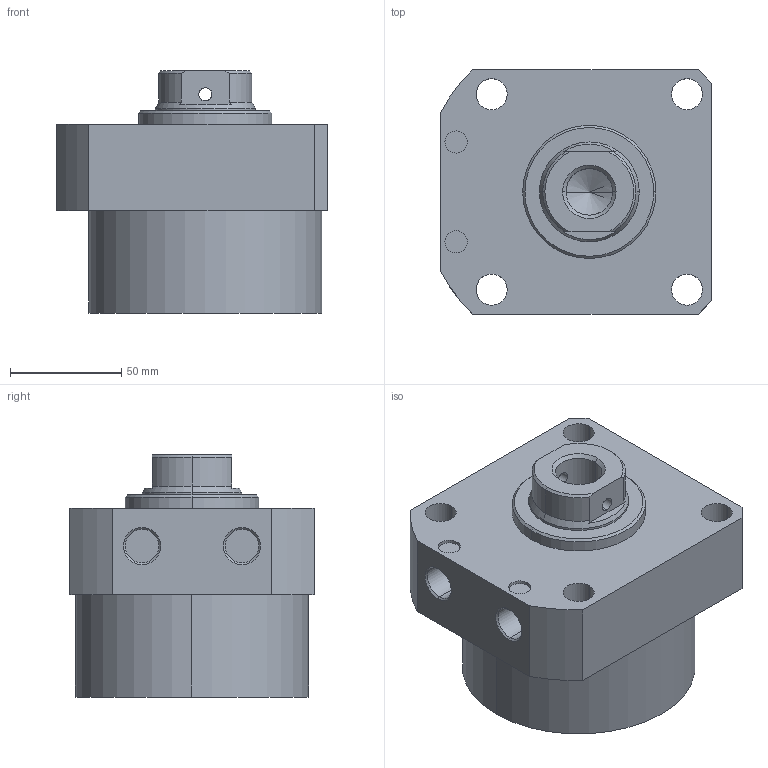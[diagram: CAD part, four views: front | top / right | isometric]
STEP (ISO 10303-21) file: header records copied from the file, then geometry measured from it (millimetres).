
FILE_DESCRIPTION (( 'STEP AP203' ), '1' );
FILE_NAME ('CLLR-105CB-025.STEP', '2019-12-19T01:39:50', ( '' ), ( '' ), 'SwSTEP 2.0', 'SolidWorks 2015', '' );
FILE_SCHEMA (( 'CONFIG_CONTROL_DESIGN' ));
Length unit declared in the file: millimetre
Products named in the file (1): CLLR-105CB-025
Bounding box: 122 x 110 x 109 mm (x, y, z)
Volume: 900392.1 mm3; surface area: 73128.8 mm2
Topology: 1 solids, 1 shells, 67 faces, 160 edges, 101 vertices
Faces by surface type: cylinder 33, plane 19, cone 15
Entity records: 2165 total; most frequent: CARTESIAN_POINT 471, DIRECTION 358, ORIENTED_EDGE 316, EDGE_CURVE 158, AXIS2_PLACEMENT_3D 144, VERTEX_POINT 101, EDGE_LOOP 87, CIRCLE 76
